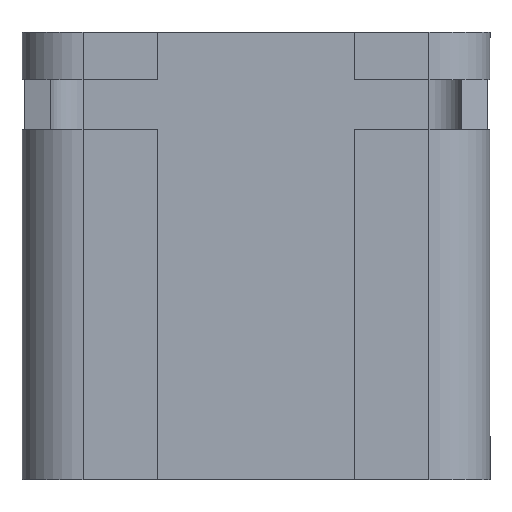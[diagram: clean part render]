
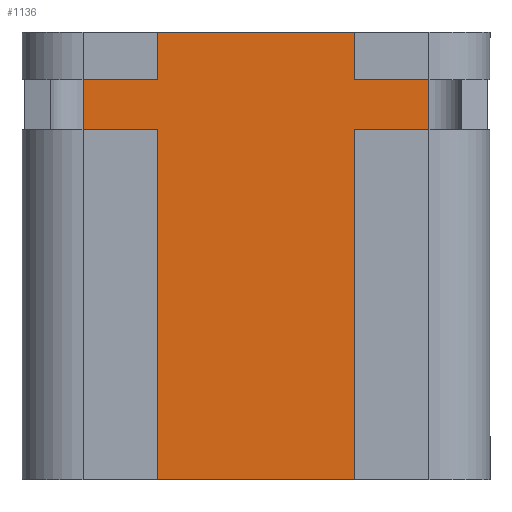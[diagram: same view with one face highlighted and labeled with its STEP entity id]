
A CAD part, front view. The second image highlights one B-rep face of the part: STEP entity #1136.
In plain terms, the highlighted planar face has unit normal (0, -1, 0).
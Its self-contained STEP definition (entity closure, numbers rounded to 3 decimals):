
#25 = CARTESIAN_POINT ( 'NONE',  ( -2., 2.5, -6.6 ) ) ;
#33 = CARTESIAN_POINT ( 'NONE',  ( -1.1, 2.5, 0. ) ) ;
#89 = CARTESIAN_POINT ( 'NONE',  ( -2., 2.5, 0. ) ) ;
#123 = CARTESIAN_POINT ( 'NONE',  ( 4., 2.5, 0. ) ) ;
#167 = VERTEX_POINT ( 'NONE', #711 ) ;
#282 = CARTESIAN_POINT ( 'NONE',  ( -2., 2.5, -6.6 ) ) ;
#362 = CARTESIAN_POINT ( 'NONE',  ( -1.1, 2.5, -6.6 ) ) ;
#382 = DIRECTION ( 'NONE',  ( 0., 0., 1. ) ) ;
#393 = EDGE_LOOP ( 'NONE', ( #1813, #1461, #1694, #1117 ) ) ;
#394 = CARTESIAN_POINT ( 'NONE',  ( -1.1, 2.5, -6.6 ) ) ;
#436 = VERTEX_POINT ( 'NONE', #33 ) ;
#443 = FACE_OUTER_BOUND ( 'NONE', #393, .T. ) ;
#484 = LINE ( 'NONE', #25, #1307 ) ;
#634 = DIRECTION ( 'NONE',  ( 1., 0., 0. ) ) ;
#693 = CARTESIAN_POINT ( 'NONE',  ( 4., 2.5, -6.6 ) ) ;
#711 = CARTESIAN_POINT ( 'NONE',  ( 4., 2.5, -6.6 ) ) ;
#815 = VECTOR ( 'NONE', #1323, 1000. ) ;
#873 = DIRECTION ( 'NONE',  ( 1., 0., 0. ) ) ;
#1028 = VERTEX_POINT ( 'NONE', #362 ) ;
#1032 = DIRECTION ( 'NONE',  ( 0., 0., 1. ) ) ;
#1038 = DIRECTION ( 'NONE',  ( 0., -1., 0. ) ) ;
#1041 = EDGE_CURVE ( 'NONE', #167, #1547, #1788, .T. ) ;
#1071 = VECTOR ( 'NONE', #1032, 1000. ) ;
#1117 = ORIENTED_EDGE ( 'NONE', *, *, #1041, .T. ) ;
#1136 = ADVANCED_FACE ( 'NONE', ( #443 ), #1385, .T. ) ;
#1243 = AXIS2_PLACEMENT_3D ( 'NONE', #282, #1038, #873 ) ;
#1307 = VECTOR ( 'NONE', #634, 1000. ) ;
#1323 = DIRECTION ( 'NONE',  ( 1., 0., 0. ) ) ;
#1342 = EDGE_CURVE ( 'NONE', #1028, #167, #484, .T. ) ;
#1385 = PLANE ( 'NONE',  #1243 ) ;
#1458 = EDGE_CURVE ( 'NONE', #436, #1547, #1477, .T. ) ;
#1461 = ORIENTED_EDGE ( 'NONE', *, *, #1972, .F. ) ;
#1477 = LINE ( 'NONE', #89, #815 ) ;
#1507 = LINE ( 'NONE', #394, #1071 ) ;
#1538 = VECTOR ( 'NONE', #382, 1000. ) ;
#1547 = VERTEX_POINT ( 'NONE', #123 ) ;
#1694 = ORIENTED_EDGE ( 'NONE', *, *, #1342, .T. ) ;
#1788 = LINE ( 'NONE', #693, #1538 ) ;
#1813 = ORIENTED_EDGE ( 'NONE', *, *, #1458, .F. ) ;
#1972 = EDGE_CURVE ( 'NONE', #1028, #436, #1507, .T. ) ;
